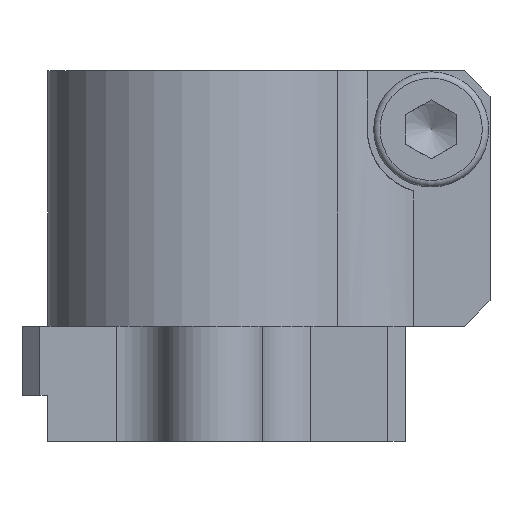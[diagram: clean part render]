
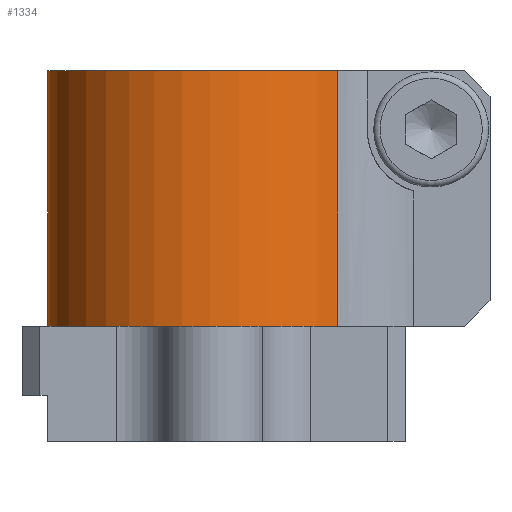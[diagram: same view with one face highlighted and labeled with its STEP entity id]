
A CAD part, left-side view. The second image highlights one B-rep face of the part: STEP entity #1334.
In plain terms, the highlighted cylindrical face has radius 6.5 mm (diameter 13 mm), a partial arc.
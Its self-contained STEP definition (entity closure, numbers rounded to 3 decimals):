
#39=CYLINDRICAL_SURFACE('',#1455,6.5);
#76=FACE_OUTER_BOUND('',#149,.T.);
#149=EDGE_LOOP('',(#932,#933,#934,#935));
#206=CIRCLE('',#1410,6.5);
#230=CIRCLE('',#1456,6.5);
#295=LINE('',#2041,#427);
#296=LINE('',#2044,#428);
#427=VECTOR('',#1672,10.);
#428=VECTOR('',#1675,10.);
#522=VERTEX_POINT('',#1907);
#523=VERTEX_POINT('',#1909);
#567=VERTEX_POINT('',#2040);
#568=VERTEX_POINT('',#2042);
#643=EDGE_CURVE('',#522,#523,#206,.T.);
#708=EDGE_CURVE('',#522,#567,#295,.T.);
#709=EDGE_CURVE('',#568,#567,#230,.T.);
#710=EDGE_CURVE('',#523,#568,#296,.T.);
#932=ORIENTED_EDGE('',*,*,#643,.F.);
#933=ORIENTED_EDGE('',*,*,#708,.T.);
#934=ORIENTED_EDGE('',*,*,#709,.F.);
#935=ORIENTED_EDGE('',*,*,#710,.F.);
#1334=ADVANCED_FACE('',(#76),#39,.T.);
#1410=AXIS2_PLACEMENT_3D('',#1910,#1539,#1540);
#1455=AXIS2_PLACEMENT_3D('',#2039,#1670,#1671);
#1456=AXIS2_PLACEMENT_3D('',#2043,#1673,#1674);
#1539=DIRECTION('center_axis',(0.,0.,-1.));
#1540=DIRECTION('ref_axis',(-0.667,0.745,0.));
#1670=DIRECTION('center_axis',(0.,0.,1.));
#1671=DIRECTION('ref_axis',(-0.667,0.745,0.));
#1672=DIRECTION('',(0.,0.,1.));
#1673=DIRECTION('center_axis',(0.,0.,1.));
#1674=DIRECTION('ref_axis',(-0.667,0.745,0.));
#1675=DIRECTION('',(0.,0.,1.));
#1907=CARTESIAN_POINT('',(-4.333,-4.845,4.5));
#1909=CARTESIAN_POINT('',(4.333,-4.845,4.5));
#1910=CARTESIAN_POINT('Origin',(0.,0.,4.5));
#2039=CARTESIAN_POINT('Origin',(0.,0.,4.5));
#2040=CARTESIAN_POINT('',(-4.333,-4.845,14.5));
#2041=CARTESIAN_POINT('',(-4.333,-4.845,4.5));
#2042=CARTESIAN_POINT('',(4.333,-4.845,14.5));
#2043=CARTESIAN_POINT('Origin',(0.,0.,14.5));
#2044=CARTESIAN_POINT('',(4.333,-4.845,4.5));
